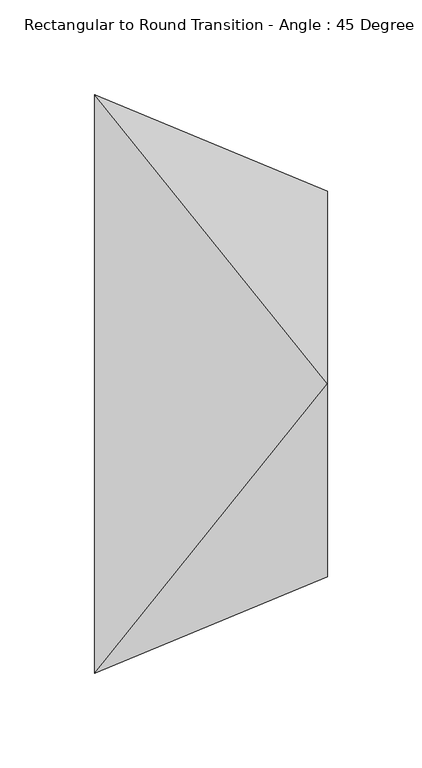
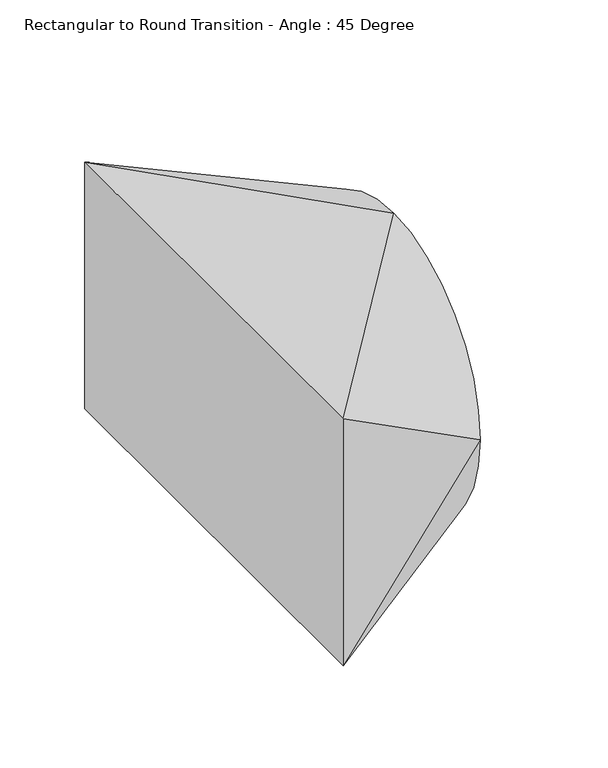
"""IFC4 building model written with IfcOpenShell, lengths in millimetres: duct fitting geometry, Rectangular to Round Transition - Angle : 45 Degree."""

from ifc_helpers import new_model, si_unit, frame, origin, place, context, project, spatial, circle_curve, source, transform, mapped, element, save
from ifc_brep_helpers import plane_surface, spline_surface, advanced_brep


def rectangular_to_round_transition_angle_45_degree_93942259(model_context):
    return source(origin(), model_context, "Body", "AdvancedBrep", [
        advanced_brep(
        [(122.642049, 0.0, 101.6), (122.642049, -101.6, 0.0), (122.642049, 0.0, -101.6), (122.642049, 101.6, 0.0), (0.0, -152.4, 88.9), (0.0, 152.4, 88.9), (0.0, 152.4, -88.9), (0.0, -152.4, -88.9)],
        [
            (0, 1, circle_curve(frame((122.642049, 0.0, 0.0), z_axis=(1.0, 0.0, 0.0), x_axis=(0.0, 1.0, 0.0)), 101.6)),
            (1, 2, circle_curve(frame((122.642049, 0.0, 0.0), z_axis=(1.0, 0.0, 0.0), x_axis=(0.0, 1.0, 0.0)), 101.6)),
            (2, 3, circle_curve(frame((122.642049, 0.0, 0.0), z_axis=(1.0, 0.0, 0.0), x_axis=(0.0, 1.0, 0.0)), 101.6)),
            (3, 0, circle_curve(frame((122.642049, 0.0, 0.0), z_axis=(1.0, 0.0, 0.0), x_axis=(0.0, 1.0, 0.0)), 101.6)),
            (4, 5),
            (5, 6),
            (6, 7),
            (7, 4),
            (0, 4),
            (4, 1),
            (7, 1),
            (7, 2),
            (6, 2),
            (6, 3),
            (5, 3),
            (5, 0),
        ],
        [
            plane_surface(frame((122.642049, 0.0, 0.0), z_axis=(1.0, 0.0, 0.0), x_axis=(0.0, 0.0, -1.0))),
            plane_surface(frame((0.0, 0.0, 0.0), z_axis=(-1.0, 0.0, 0.0), x_axis=(0.0, 0.0, -1.0))),
            spline_surface(2, 1, [[(0.0, -152.4, 88.9), (122.642049, 0.0, 101.6)], [(0.0, -152.4, 88.9), (122.642049, -101.6, 101.6)], [(0.0, -152.4, 88.9), (122.642049, -101.6, 0.0)]], [3, 3], [2, 2], [0.0, 1.0], [0.0, 1.0], weights=[[1.0, 1.0], [0.7071067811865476, 0.7071067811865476], [1.0, 1.0]]),
            plane_surface(frame((0.0, -152.4, 0.0), z_axis=(0.3826834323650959, -0.9238795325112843, 0.0), x_axis=(0.0, 0.0, -1.0))),
            spline_surface(2, 1, [[(0.0, -152.4, -88.9), (122.642049, -101.6, 0.0)], [(0.0, -152.4, -88.9), (122.642049, -101.6, -101.6)], [(0.0, -152.4, -88.9), (122.642049, 0.0, -101.6)]], [3, 3], [2, 2], [0.0, 1.0], [0.0, 1.0], weights=[[1.0, 1.0], [0.7071067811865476, 0.7071067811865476], [1.0, 1.0]]),
            plane_surface(frame((0.0, 0.0, -88.9), z_axis=(-0.10300259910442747, 0.0, -0.9946810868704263), x_axis=(0.0, 1.0, 0.0))),
            spline_surface(2, 1, [[(0.0, 152.4, -88.9), (122.642049, 0.0, -101.6)], [(0.0, 152.4, -88.9), (122.642049, 101.6, -101.6)], [(0.0, 152.4, -88.9), (122.642049, 101.6, 0.0)]], [3, 3], [2, 2], [0.0, 1.0], [0.0, 1.0], weights=[[1.0, 1.0], [0.7071067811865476, 0.7071067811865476], [1.0, 1.0]]),
            plane_surface(frame((0.0, 152.4, 0.0), z_axis=(0.3826834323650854, 0.9238795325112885, 0.0), x_axis=(0.0, 0.0, 1.0))),
            spline_surface(2, 1, [[(0.0, 152.4, 88.9), (122.642049, 101.6, 0.0)], [(0.0, 152.4, 88.9), (122.642049, 101.6, 101.6)], [(0.0, 152.4, 88.9), (122.642049, 0.0, 101.6)]], [3, 3], [2, 2], [0.0, 1.0], [0.0, 1.0], weights=[[1.0, 1.0], [0.7071067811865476, 0.7071067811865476], [1.0, 1.0]]),
            plane_surface(frame((0.0, 0.0, 88.9), z_axis=(-0.10300259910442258, 0.0, 0.9946810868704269), x_axis=(0.0, -1.0, 0.0))),
        ],
        [
            (0, [[1, 2, 3, 4]]),
            (1, [[5, 6, 7, 8]]),
            (2, [[-1, 9, 10]]),
            (3, [[-8, 11, -10]]),
            (4, [[-2, -11, 12]]),
            (5, [[-7, 13, -12]]),
            (6, [[-3, -13, 14]]),
            (7, [[-6, 15, -14]]),
            (8, [[-4, -15, 16]]),
            (9, [[-5, -9, -16]]),
        ],
    ),
    ])


if __name__ == "__main__":
    model = new_model("IFC4")
    model_context = context("Model", 3, world=origin())
    ifc_project = project(units=[si_unit("LENGTHUNIT", "METRE", prefix="MILLI")], contexts=[model_context])
    site = spatial("IfcSite", under=ifc_project)
    building = spatial("IfcBuilding", under=site)
    placement = place(None, origin())
    rectangular_to_round_transition_angle_45_degree_shape = rectangular_to_round_transition_angle_45_degree_93942259(model_context)
    element("IfcDuctFitting", 1, ObjectType="Rectangular to Round Transition - Angle : 45 Degree", at=placement, inside=building, context=model_context, shape_type="MappedRepresentation", body=[
        mapped(rectangular_to_round_transition_angle_45_degree_shape, transform((0.0, 0.0, 0.0), x_axis=(1.0, 0.0, 0.0), y_axis=(0.0, 1.0, 0.0), z_axis=(0.0, 0.0, 1.0))),
    ])
    save(model, "model.ifc")
